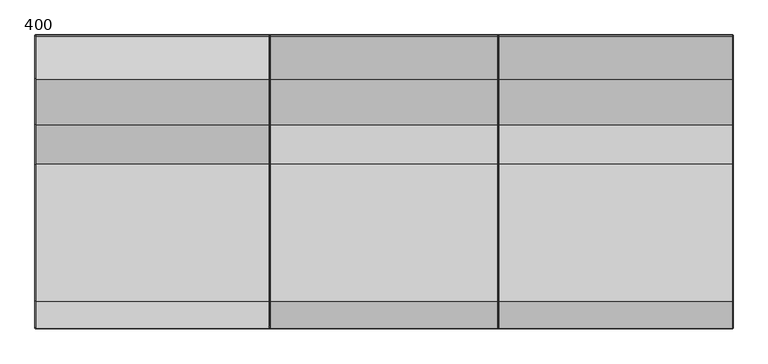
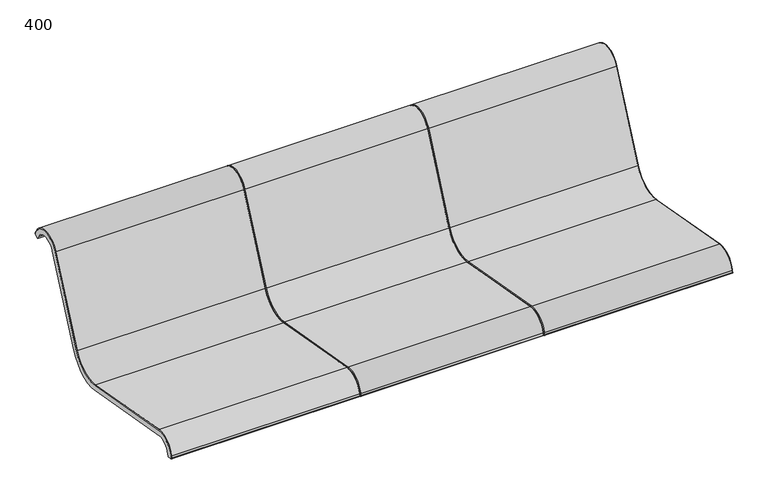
"""IFC4 building model written with IfcOpenShell, lengths in millimetres: furniture geometry, Vestre - Munch - 5116 : 400."""

from ifc_helpers import new_model, si_unit, point, frame, origin, place, context, project, spatial, polyline, circle_curve, ellipse_curve, trimmed, source, transform, mapped, element, save
from ifc_brep_helpers import plane_surface, cylinder_surface, revolved_surface, advanced_brep


def furniture_400_a57a729c(model_context):
    return source(origin(), model_context, "Body", "AdvancedBrep", [
        advanced_brep(
        [(-315.5, 387.7145515, 668.2491387), (-315.5, 382.8976748, 677.7027915), (-315.5, 300.0909448, 675.5344209), (-315.5, 173.7831535, 391.8424769), (-315.5, 43.3199172, 322.4739437), (-315.5, -334.8137617, 389.1491136), (-315.5, -386.6445717, 354.1887908), (-315.5, -388.7630396, 344.2221828), (-315.5, -405.3915488, 347.7566815), (-315.5, -403.2730809, 357.7232895), (-315.5, -331.8617426, 405.8908454), (-315.5, 46.2719363, 339.2156755), (-315.5, 158.2528807, 398.7569998), (-315.5, 284.560672, 682.4489438), (-315.5, 398.0447857, 685.4206299), (-315.5, 402.8616624, 675.9669771), (315.5, -388.7630396, 344.2221828), (315.5, -386.6445717, 354.1887908), (315.5, -334.8137617, 389.1491136), (315.5, 43.3199172, 322.4739437), (315.5, 173.7831535, 391.8424769), (315.5, 300.0909448, 675.5344209), (315.5, 382.8976748, 677.7027915), (315.5, 387.7145515, 668.2491387), (315.5, 402.8616624, 675.9669771), (315.5, 398.0447857, 685.4206299), (315.5, 284.560672, 682.4489438), (315.5, 158.2528807, 398.7569998), (315.5, 46.2719363, 339.2156755), (315.5, -331.8617426, 405.8908454), (315.5, -403.2730809, 357.7232895), (315.5, -405.3915488, 347.7566815), (-312.5, -331.3407981, 408.8452686), (312.5, -331.3407981, 408.8452686), (312.5, 46.7928808, 342.1700987), (-312.5000019, 46.7928808, 342.1700987), (-312.5, -406.2075237, 358.3470246), (312.5, -406.2075237, 358.3470246), (-312.5, -407.7022566, 351.3148594), (312.5, -407.7022566, 351.3148594), (-312.5000019, 400.7178052, 686.7826014), (312.5, 400.7178052, 686.7826014), (312.5, 404.1727104, 680.0019682), (-312.5, 404.1727104, 680.0019682), (-312.5, 281.8200356, 683.6691538), (312.5, 281.8200356, 683.6691538), (-312.5, 155.5122443, 399.9772097), (312.5, 155.5122443, 399.9772097)],
        [
            (0, 1),
            (1, 2, circle_curve(frame((-315.5, 342.0114396, 656.8702141), z_axis=(1.0, 0.0, 0.0), x_axis=(0.0, -1.0, 0.0)), 45.8876945)),
            (2, 3),
            (3, 4, circle_curve(frame((-315.5, 64.1576986, 440.650874), z_axis=(-1.0, 0.0, 0.0), x_axis=(0.0, -1.0, 0.0)), 120.0)),
            (4, 5),
            (5, 6, circle_curve(frame((-315.5, -342.6279297, 344.8327647), z_axis=(1.0, 0.0, 0.0), x_axis=(0.0, -1.0, 0.0)), 45.0)),
            (6, 7),
            (7, 8),
            (8, 9),
            (9, 10, circle_curve(frame((-315.5, -342.6279297, 344.8327647), z_axis=(-1.0, 0.0, 0.0), x_axis=(0.0, -0.978147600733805, 0.20791169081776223)), 62.0)),
            (10, 11),
            (11, 12, circle_curve(frame((-315.5, 64.1576986, 440.650874), z_axis=(1.0, 0.0, 0.0), x_axis=(0.0, -0.17364817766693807, -0.9848077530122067)), 103.0)),
            (12, 13),
            (13, 14, circle_curve(frame((-315.5, 342.0114396, 656.8702141), z_axis=(-1.0, 0.0, 0.0), x_axis=(0.0, -0.9135454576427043, 0.4067366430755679)), 62.8876945)),
            (14, 15),
            (15, 0),
            (16, 17),
            (17, 18, circle_curve(frame((315.5, -342.6279297, 344.8327647), z_axis=(-1.0, 0.0, 0.0), x_axis=(0.0, -1.0, 0.0)), 45.0)),
            (18, 19),
            (19, 20, circle_curve(frame((315.5, 64.1576986, 440.650874), z_axis=(1.0, 0.0, 0.0), x_axis=(0.0, -1.0, 0.0)), 120.0)),
            (20, 21),
            (21, 22, circle_curve(frame((315.5, 342.0114396, 656.8702141), z_axis=(-1.0, 0.0, 0.0), x_axis=(0.0, -1.0, 0.0)), 45.8876945)),
            (22, 23),
            (23, 24),
            (24, 25),
            (25, 26, circle_curve(frame((315.5, 342.0114396, 656.8702141), z_axis=(1.0, 0.0, 0.0), x_axis=(0.0, 0.8910065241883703, 0.4539904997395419)), 62.8876945)),
            (26, 27),
            (27, 28, circle_curve(frame((315.5, 64.1576986, 440.650874), z_axis=(-1.0, 0.0, 0.0), x_axis=(0.0, 0.9135454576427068, -0.40673664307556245)), 103.0)),
            (28, 29),
            (29, 30, circle_curve(frame((315.5, -342.6279297, 344.8327647), z_axis=(1.0, 0.0, 0.0), x_axis=(0.0, 0.17364817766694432, 0.9848077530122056)), 62.0)),
            (30, 31),
            (31, 16),
            (32, 33),
            (33, 34),
            (34, 35),
            (35, 32),
            (32, 36, circle_curve(frame((-312.5, -342.6279297, 344.8327647), z_axis=(1.0, 0.0, 0.0), x_axis=(0.0, -1.0, 0.0)), 65.0)),
            (36, 37),
            (37, 33, circle_curve(frame((312.5, -342.6279297, 344.8327647), z_axis=(-1.0, 0.0, 0.0), x_axis=(0.0, -1.0, 0.0)), 65.0)),
            (36, 38),
            (38, 39),
            (39, 37),
            (7, 16),
            (31, 8),
            (6, 17),
            (5, 18),
            (4, 19),
            (3, 20),
            (2, 21),
            (1, 22),
            (0, 23),
            (15, 24),
            (40, 41),
            (41, 42),
            (42, 43),
            (43, 40),
            (40, 44, circle_curve(frame((-312.5, 342.0114396, 656.8702141), z_axis=(1.0, 0.0, 0.0), x_axis=(0.0, -1.0, 0.0)), 65.8876945)),
            (44, 45),
            (45, 41, circle_curve(frame((312.5, 342.0114396, 656.8702141), z_axis=(-1.0, 0.0, 0.0), x_axis=(0.0, -1.0, 0.0)), 65.8876945)),
            (44, 46),
            (46, 47),
            (47, 45),
            (46, 35, circle_curve(frame((-312.5, 64.1576986, 440.650874), z_axis=(-1.0, 0.0, 0.0), x_axis=(0.0, -1.0, 0.0)), 100.0)),
            (34, 47, circle_curve(frame((312.5, 64.1576986, 440.650874), z_axis=(1.0, 0.0, 0.0), x_axis=(0.0, -1.0, 0.0)), 100.0)),
            (46, 12, circle_curve(frame((-312.5, 158.2528807, 398.7569998), z_axis=(0.0, -0.406736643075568, -0.9135454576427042), x_axis=(0.0, 0.9135454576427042, -0.406736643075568)), 3.0)),
            (11, 35, circle_curve(frame((-312.5, 46.2719363, 339.2156755), z_axis=(0.0, 0.9848077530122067, -0.17364817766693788), x_axis=(0.0, -0.17364817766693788, -0.9848077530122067)), 3.0)),
            (44, 13, circle_curve(frame((-312.5, 284.560672, 682.4489438), z_axis=(0.0, -0.40673664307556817, -0.9135454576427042), x_axis=(0.0, 0.9135454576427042, -0.40673664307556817)), 3.0)),
            (40, 14, circle_curve(frame((-312.5, 398.0447857, 685.4206299), z_axis=(0.0, -0.45399049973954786, 0.8910065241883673), x_axis=(0.0, -0.8910065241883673, -0.45399049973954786)), 3.0)),
            (43, 15, ellipse_curve(frame((-312.5, 401.4996909, 678.6399967), z_axis=(-0.7071067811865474, -0.32101976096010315, 0.6300367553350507), x_axis=(-0.7071067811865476, 0.32101976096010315, -0.6300367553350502)), 4.2426407, 3.0)),
            (42, 24, ellipse_curve(frame((312.5, 401.4996909, 678.6399967), z_axis=(-0.7071067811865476, 0.32101976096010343, -0.6300367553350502), x_axis=(0.7071067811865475, 0.32101976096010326, -0.6300367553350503)), 4.2426407, 3.0)),
            (41, 25, circle_curve(frame((312.5, 398.0447857, 685.4206299), z_axis=(0.0, 0.45399049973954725, -0.8910065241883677), x_axis=(0.0, -0.8910065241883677, -0.45399049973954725)), 3.0)),
            (45, 26, circle_curve(frame((312.5, 284.560672, 682.4489438), z_axis=(0.0, 0.40673664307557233, 0.9135454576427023), x_axis=(0.0, 0.9135454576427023, -0.40673664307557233)), 3.0)),
            (47, 27, circle_curve(frame((312.5, 158.2528807, 398.7569998), z_axis=(0.0, 0.40673664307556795, 0.9135454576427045), x_axis=(0.0, 0.9135454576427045, -0.40673664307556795)), 3.0)),
            (34, 28, circle_curve(frame((312.5, 46.2719363, 339.2156755), z_axis=(0.0, 0.9848077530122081, -0.17364817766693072), x_axis=(0.0, -0.17364817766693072, -0.9848077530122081)), 3.0)),
            (33, 29, circle_curve(frame((312.5, -331.8617426, 405.8908454), z_axis=(0.0, 0.984807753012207, -0.17364817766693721), x_axis=(0.0, -0.17364817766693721, -0.984807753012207)), 3.0)),
            (37, 30, circle_curve(frame((312.5, -403.2730809, 357.7232895), z_axis=(0.0, 0.20791169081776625, 0.9781476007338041), x_axis=(0.0, 0.9781476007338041, -0.20791169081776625)), 3.0)),
            (39, 31, ellipse_curve(frame((312.5, -404.7678138, 350.6911243), z_axis=(0.7071067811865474, 0.14701576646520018, 0.6916548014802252), x_axis=(0.7071067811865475, -0.1470157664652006, -0.6916548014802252)), 4.2426407, 3.0)),
            (38, 8, ellipse_curve(frame((-312.5, -404.7678138, 350.6911243), z_axis=(0.7071067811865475, -0.14701576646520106, -0.691654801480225), x_axis=(-0.7071067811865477, -0.14701576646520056, -0.6916548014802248)), 4.2426407, 3.0)),
            (36, 9, circle_curve(frame((-312.5, -403.2730809, 357.7232895), z_axis=(0.0, -0.2079116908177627, -0.9781476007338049), x_axis=(0.0, 0.9781476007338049, -0.2079116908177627)), 3.0)),
            (32, 10, circle_curve(frame((-312.5, -331.8617426, 405.8908454), z_axis=(0.0, -0.9848077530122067, 0.17364817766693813), x_axis=(0.0, -0.17364817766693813, -0.9848077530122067)), 3.0)),
        ],
        [
            plane_surface(frame((-315.5, -35.8423014, 440.650874), z_axis=(-1.0, 0.0, 0.0), x_axis=(0.0, 0.0, -1.0))),
            plane_surface(frame((315.5, -35.8423014, 440.650874), z_axis=(1.0, 0.0, 0.0), x_axis=(0.0, 0.0, 1.0))),
            plane_surface(frame((-315.5, -331.3407981, 408.8452686), z_axis=(0.0, 0.17364817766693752, 0.9848077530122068), x_axis=(1.0, 0.0, 0.0))),
            cylinder_surface(frame((315.5, -342.6279297, 344.8327647), z_axis=(-1.0, 0.0, 0.0), x_axis=(0.0, -1.0, 0.0)), 65.0),
            plane_surface(frame((-315.5, -408.3259916, 348.3804166), z_axis=(0.0, -0.978147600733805, 0.20791169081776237), x_axis=(1.0, 0.0, 0.0))),
            plane_surface(frame((-315.5, -388.7630396, 344.2221828), z_axis=(0.0, -0.20791169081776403, -0.9781476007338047), x_axis=(1.0, 0.0, 0.0))),
            plane_surface(frame((-315.5, -386.6445717, 354.1887908), z_axis=(0.0, 0.978147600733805, -0.20791169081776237), x_axis=(1.0, 0.0, 0.0))),
            revolved_surface(polyline([(315.5, -387.6279297, 344.8327647), (-315.5, -387.6279297, 344.8327647)]), (315.5, -342.6279297, 344.8327647), (1.0, 0.0, 0.0)),
            plane_surface(frame((-315.5, 43.3199172, 322.4739437), z_axis=(0.0, -0.1736481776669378, -0.9848077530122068), x_axis=(1.0, 0.0, 0.0))),
            cylinder_surface(frame((315.5, 64.1576986, 440.650874), z_axis=(-1.0, 0.0, 0.0), x_axis=(0.0, -1.0, 0.0)), 120.0),
            plane_surface(frame((-315.5, 300.0909448, 675.5344209), z_axis=(0.0, 0.9135454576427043, -0.406736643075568), x_axis=(1.0, 0.0, 0.0))),
            revolved_surface(polyline([(315.5, 296.1237451, 656.8702141), (-315.5, 296.1237451, 656.8702141)]), (315.5, 342.0114396, 656.8702141), (1.0, 0.0, 0.0)),
            plane_surface(frame((-315.5, 387.7145515, 668.2491387), z_axis=(0.0, -0.8910065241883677, -0.45399049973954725), x_axis=(1.0, 0.0, 0.0))),
            plane_surface(frame((-315.5, 405.5346819, 677.3289486), z_axis=(0.0, 0.45399049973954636, -0.8910065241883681), x_axis=(1.0, 0.0, 0.0))),
            plane_surface(frame((-315.5, 400.7178052, 686.7826014), z_axis=(0.0, 0.8910065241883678, 0.4539904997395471), x_axis=(1.0, 0.0, 0.0))),
            cylinder_surface(frame((315.5, 342.0114396, 656.8702141), z_axis=(-1.0, 0.0, 0.0), x_axis=(0.0, -1.0, 0.0)), 65.8876945),
            plane_surface(frame((-315.5, 155.5122443, 399.9772097), z_axis=(0.0, -0.9135454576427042, 0.4067366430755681), x_axis=(1.0, 0.0, 0.0))),
            revolved_surface(polyline([(312.5, -35.8423014, 440.650874), (-312.5000018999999, -35.8423014, 440.650874)]), (315.5, 64.1576986, 440.650874), (1.0, 0.0, 0.0)),
            revolved_surface(trimmed(ellipse_curve(frame((-312.5, 46.2719363, 339.2156755), z_axis=(0.0, -0.9848077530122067, 0.17364817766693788), x_axis=(0.0, -0.17364817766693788, -0.9848077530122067)), 3.0, 3.0), [point((-312.5, 46.7928808, 342.1700987))], [point((-315.5, 46.2719363, 339.2156755))], True, "CARTESIAN"), (-315.5, 64.1576986, 440.650874), (1.0, 0.0, 0.0)),
            cylinder_surface(frame((-312.5, 158.2528807, 398.7569998), z_axis=(0.0, 0.40673664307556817, 0.9135454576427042), x_axis=(0.0, 0.9135454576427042, -0.40673664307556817)), 3.0),
            revolved_surface(trimmed(ellipse_curve(frame((-312.5, 284.560672, 682.4489438), z_axis=(0.0, -0.406736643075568, -0.9135454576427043), x_axis=(0.0, 0.9135454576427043, -0.406736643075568)), 3.0, 3.0), [point((-312.5, 281.8200356, 683.6691538))], [point((-315.5, 284.560672, 682.4489438))], True, "CARTESIAN"), (-315.5, 342.0114396, 656.8702141), (-1.0, 0.0, 0.0)),
            cylinder_surface(frame((-312.5, 398.0447857, 685.4206299), z_axis=(0.0, 0.4539904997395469, -0.8910065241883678), x_axis=(0.0, -0.8910065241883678, -0.4539904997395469)), 3.0),
            cylinder_surface(frame((-315.5, 401.4996909, 678.6399967), z_axis=(1.0, 0.0, 0.0), x_axis=(0.0, -0.8910065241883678, -0.4539904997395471)), 3.0),
            cylinder_surface(frame((312.5, 402.8616624, 675.9669771), z_axis=(0.0, -0.45399049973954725, 0.8910065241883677), x_axis=(0.0, -0.8910065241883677, -0.45399049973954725)), 3.0),
            revolved_surface(trimmed(ellipse_curve(frame((312.5, 398.0447857, 685.4206299), z_axis=(0.0, 0.45399049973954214, -0.8910065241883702), x_axis=(0.0, -0.8910065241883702, -0.45399049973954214)), 3.0, 3.0), [point((312.5, 400.7178052, 686.7826014))], [point((315.5, 398.0447857, 685.4206299))], True, "CARTESIAN"), (315.5, 342.0114396, 656.8702141), (1.0, 0.0, 0.0)),
            cylinder_surface(frame((312.5, 284.560672, 682.4489438), z_axis=(0.0, -0.40673664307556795, -0.9135454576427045), x_axis=(0.0, 0.9135454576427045, -0.40673664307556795)), 3.0),
            revolved_surface(trimmed(ellipse_curve(frame((312.5, 158.2528807, 398.7569998), z_axis=(0.0, 0.4067366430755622, 0.9135454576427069), x_axis=(0.0, 0.9135454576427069, -0.4067366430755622)), 3.0, 3.0), [point((312.5, 155.5122443, 399.9772097))], [point((315.5, 158.2528807, 398.7569998))], True, "CARTESIAN"), (315.5, 64.1576986, 440.650874), (-1.0, 0.0, 0.0)),
            cylinder_surface(frame((312.5, 46.2719363, 339.2156755), z_axis=(0.0, -0.984807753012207, 0.17364817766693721), x_axis=(0.0, -0.17364817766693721, -0.984807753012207)), 3.0),
            revolved_surface(trimmed(ellipse_curve(frame((312.5, -331.8617426, 405.8908454), z_axis=(0.0, 0.9848077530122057, -0.173648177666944), x_axis=(0.0, -0.173648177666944, -0.9848077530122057)), 3.0, 3.0), [point((312.5, -331.3407981, 408.8452686))], [point((315.5, -331.8617426, 405.8908454))], True, "CARTESIAN"), (315.5, -342.6279297, 344.8327647), (1.0, 0.0, 0.0)),
            cylinder_surface(frame((312.5, -403.2730809, 357.7232895), z_axis=(0.0, -0.20791169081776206, -0.9781476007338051), x_axis=(0.0, 0.9781476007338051, -0.20791169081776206)), 3.0),
            cylinder_surface(frame((315.5, -404.7678138, 350.6911243), z_axis=(-1.0, 0.0, 0.0), x_axis=(0.0, 0.978147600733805, -0.20791169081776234)), 3.0),
            cylinder_surface(frame((-312.5, -405.3915488, 347.7566815), z_axis=(0.0, 0.2079116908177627, 0.9781476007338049), x_axis=(0.0, 0.9781476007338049, -0.2079116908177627)), 3.0),
            revolved_surface(trimmed(ellipse_curve(frame((-312.5, -403.2730809, 357.7232895), z_axis=(0.0, -0.20791169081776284, -0.9781476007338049), x_axis=(0.0, 0.9781476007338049, -0.20791169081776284)), 3.0, 3.0), [point((-312.5, -406.2075237, 358.3470246))], [point((-315.5, -403.2730809, 357.7232895))], True, "CARTESIAN"), (-315.5, -342.6279297, 344.8327647), (-1.0, 0.0, 0.0)),
            cylinder_surface(frame((-312.5, -331.8617426, 405.8908454), z_axis=(0.0, 0.9848077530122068, -0.17364817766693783), x_axis=(0.0, -0.17364817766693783, -0.9848077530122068)), 3.0),
        ],
        [
            (0, [[1, 2, 3, 4, 5, 6, 7, 8, 9, 10, 11, 12, 13, 14, 15, 16]]),
            (1, [[17, 18, 19, 20, 21, 22, 23, 24, 25, 26, 27, 28, 29, 30, 31, 32]]),
            (2, [[33, 34, 35, 36]]),
            (3, [[-33, 37, 38, 39]]),
            (4, [[-38, 40, 41, 42]]),
            (5, [[43, -32, 44, -8]]),
            (6, [[-7, 45, -17, -43]]),
            (7, [[-6, 46, -18, -45]]),
            (8, [[-5, 47, -19, -46]]),
            (9, [[-4, 48, -20, -47]]),
            (10, [[-3, 49, -21, -48]]),
            (11, [[-2, 50, -22, -49]]),
            (12, [[-1, 51, -23, -50]]),
            (13, [[-51, -16, 52, -24]]),
            (14, [[53, 54, 55, 56]]),
            (15, [[-53, 57, 58, 59]]),
            (16, [[-58, 60, 61, 62]]),
            (17, [[-61, 63, -35, 64]]),
            (18, [[65, -12, 66, -63]]),
            (19, [[-65, -60, 67, -13]]),
            (20, [[-67, -57, 68, -14]]),
            (21, [[-68, -56, 69, -15]]),
            (22, [[-69, -55, 70, -52]]),
            (23, [[-70, -54, 71, -25]]),
            (24, [[-71, -59, 72, -26]]),
            (25, [[-72, -62, 73, -27]]),
            (26, [[-73, -64, 74, -28]]),
            (27, [[-74, -34, 75, -29]]),
            (28, [[-75, -39, 76, -30]]),
            (29, [[-76, -42, 77, -31]]),
            (30, [[-77, -41, 78, -44]]),
            (31, [[-78, -40, 79, -9]]),
            (32, [[-79, -37, 80, -10]]),
            (33, [[-66, -11, -80, -36]]),
        ],
    ),
        advanced_brep(
        [(315.5, 387.7145515, 668.2491387), (315.5, 382.8976748, 677.7027915), (315.5, 300.0909448, 675.5344209), (315.5, 173.7831535, 391.8424769), (315.5, 43.3199172, 322.4739437), (315.5, -334.8137617, 389.1491136), (315.5, -386.6445717, 354.1887908), (315.5, -388.7630396, 344.2221828), (315.5, -405.3915488, 347.7566815), (315.5, -403.2730809, 357.7232895), (315.5, -331.8617426, 405.8908454), (315.5, 46.2719363, 339.2156755), (315.5, 158.2528807, 398.7569998), (315.5, 284.560672, 682.4489438), (315.5, 398.0447857, 685.4206299), (315.5, 402.8616624, 675.9669771), (965.1060612, -388.7630396, 344.2221828), (965.1060612, -386.6445717, 354.1887908), (965.1060612, -334.8137617, 389.1491136), (965.1060612, 43.3199172, 322.4739437), (965.1060612, 173.7831535, 391.8424769), (965.1060612, 300.0909448, 675.5344209), (965.1060612, 382.8976748, 677.7027915), (965.1060612, 387.7145515, 668.2491387), (965.1060612, 402.8616624, 675.9669771), (965.1060612, 398.0447857, 685.4206299), (965.1060612, 284.560672, 682.4489438), (965.1060612, 158.2528807, 398.7569998), (965.1060612, 46.2719363, 339.2156755), (965.1060612, -331.8617426, 405.8908454), (965.1060612, -403.2730809, 357.7232895), (965.1060612, -405.3915488, 347.7566815), (318.5, -331.3407981, 408.8452686), (962.1060612, -331.3407981, 408.8452686), (962.1060612, 46.7928808, 342.1700987), (318.4999986, 46.7928808, 342.1700987), (318.5, -406.2075237, 358.3470246), (962.1060612, -406.2075237, 358.3470246), (318.5, -407.7022566, 351.3148594), (962.1060612, -407.7022566, 351.3148594), (318.4999982, 400.7178052, 686.7826014), (962.1060612, 400.7178052, 686.7826014), (962.1060612, 404.1727104, 680.0019682), (318.5, 404.1727104, 680.0019682), (318.5, 281.8200356, 683.6691538), (962.1060612, 281.8200356, 683.6691538), (318.5, 155.5122443, 399.9772097), (962.1060612, 155.5122443, 399.9772097)],
        [
            (0, 1),
            (1, 2, circle_curve(frame((315.5, 342.0114396, 656.8702141), z_axis=(1.0, 0.0, 0.0), x_axis=(0.0, -1.0, 0.0)), 45.8876945)),
            (2, 3),
            (3, 4, circle_curve(frame((315.5, 64.1576986, 440.650874), z_axis=(-1.0, 0.0, 0.0), x_axis=(0.0, -1.0, 0.0)), 120.0)),
            (4, 5),
            (5, 6, circle_curve(frame((315.5, -342.6279297, 344.8327647), z_axis=(1.0, 0.0, 0.0), x_axis=(0.0, -1.0, 0.0)), 45.0)),
            (6, 7),
            (7, 8),
            (8, 9),
            (9, 10, circle_curve(frame((315.5, -342.6279297, 344.8327647), z_axis=(-1.0, 0.0, 0.0), x_axis=(0.0, -0.978147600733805, 0.20791169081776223)), 62.0)),
            (10, 11),
            (11, 12, circle_curve(frame((315.5, 64.1576986, 440.650874), z_axis=(1.0, 0.0, 0.0), x_axis=(0.0, -0.17364817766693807, -0.9848077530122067)), 103.0)),
            (12, 13),
            (13, 14, circle_curve(frame((315.5, 342.0114396, 656.8702141), z_axis=(-1.0, 0.0, 0.0), x_axis=(0.0, -0.9135454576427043, 0.4067366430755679)), 62.8876945)),
            (14, 15),
            (15, 0),
            (16, 17),
            (17, 18, circle_curve(frame((965.1060612, -342.6279297, 344.8327647), z_axis=(-1.0, 0.0, 0.0), x_axis=(0.0, -1.0, 0.0)), 45.0)),
            (18, 19),
            (19, 20, circle_curve(frame((965.1060612, 64.1576986, 440.650874), z_axis=(1.0, 0.0, 0.0), x_axis=(0.0, -1.0, 0.0)), 120.0)),
            (20, 21),
            (21, 22, circle_curve(frame((965.1060612, 342.0114396, 656.8702141), z_axis=(-1.0, 0.0, 0.0), x_axis=(0.0, -1.0, 0.0)), 45.8876945)),
            (22, 23),
            (23, 24),
            (24, 25),
            (25, 26, circle_curve(frame((965.1060612, 342.0114396, 656.8702141), z_axis=(1.0, 0.0, 0.0), x_axis=(0.0, 0.8910065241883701, 0.4539904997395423)), 62.8876945)),
            (26, 27),
            (27, 28, circle_curve(frame((965.1060612, 64.1576986, 440.650874), z_axis=(-1.0, 0.0, 0.0), x_axis=(0.0, 0.9135454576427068, -0.40673664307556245)), 103.0)),
            (28, 29),
            (29, 30, circle_curve(frame((965.1060612, -342.6279297, 344.8327647), z_axis=(1.0, 0.0, 0.0), x_axis=(0.0, 0.17364817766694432, 0.9848077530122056)), 62.0)),
            (30, 31),
            (31, 16),
            (32, 33),
            (33, 34),
            (34, 35),
            (35, 32),
            (32, 36, circle_curve(frame((318.5, -342.6279297, 344.8327647), z_axis=(1.0, 0.0, 0.0), x_axis=(0.0, -1.0, 0.0)), 65.0)),
            (36, 37),
            (37, 33, circle_curve(frame((962.1060612, -342.6279297, 344.8327647), z_axis=(-1.0, 0.0, 0.0), x_axis=(0.0, -1.0, 0.0)), 65.0)),
            (36, 38),
            (38, 39),
            (39, 37),
            (7, 16),
            (31, 8),
            (6, 17),
            (5, 18),
            (4, 19),
            (3, 20),
            (2, 21),
            (1, 22),
            (0, 23),
            (15, 24),
            (40, 41),
            (41, 42),
            (42, 43),
            (43, 40),
            (40, 44, circle_curve(frame((318.5, 342.0114396, 656.8702141), z_axis=(1.0, 0.0, 0.0), x_axis=(0.0, -1.0, 0.0)), 65.8876945)),
            (44, 45),
            (45, 41, circle_curve(frame((962.1060612, 342.0114396, 656.8702141), z_axis=(-1.0, 0.0, 0.0), x_axis=(0.0, -1.0, 0.0)), 65.8876945)),
            (44, 46),
            (46, 47),
            (47, 45),
            (46, 35, circle_curve(frame((318.5, 64.1576986, 440.650874), z_axis=(-1.0, 0.0, 0.0), x_axis=(0.0, -1.0, 0.0)), 100.0)),
            (34, 47, circle_curve(frame((962.1060612, 64.1576986, 440.650874), z_axis=(1.0, 0.0, 0.0), x_axis=(0.0, -1.0, 0.0)), 100.0)),
            (46, 12, circle_curve(frame((318.5, 158.2528807, 398.7569998), z_axis=(0.0, -0.40673664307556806, -0.9135454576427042), x_axis=(0.0, 0.9135454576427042, -0.40673664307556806)), 3.0)),
            (11, 35, circle_curve(frame((318.5, 46.2719363, 339.2156755), z_axis=(0.0, 0.9848077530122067, -0.17364817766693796), x_axis=(0.0, -0.17364817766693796, -0.9848077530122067)), 3.0)),
            (44, 13, circle_curve(frame((318.5, 284.560672, 682.4489438), z_axis=(0.0, -0.4067366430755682, -0.9135454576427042), x_axis=(0.0, 0.9135454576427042, -0.4067366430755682)), 3.0)),
            (40, 14, circle_curve(frame((318.5, 398.0447857, 685.4206299), z_axis=(0.0, -0.4539904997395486, 0.8910065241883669), x_axis=(0.0, -0.8910065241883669, -0.4539904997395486)), 3.0)),
            (43, 15, ellipse_curve(frame((318.5, 401.4996909, 678.6399967), z_axis=(-0.7071067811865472, -0.3210197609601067, 0.6300367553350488), x_axis=(-0.7071067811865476, 0.32101976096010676, -0.6300367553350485)), 4.2426407, 3.0)),
            (42, 24, ellipse_curve(frame((962.1060612, 401.4996909, 678.6399967), z_axis=(-0.7071067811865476, 0.321019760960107, -0.6300367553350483), x_axis=(0.7071067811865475, 0.3210197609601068, -0.6300367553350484)), 4.2426407, 3.0)),
            (41, 25, circle_curve(frame((962.1060612, 398.0447857, 685.4206299), z_axis=(0.0, 0.4539904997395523, -0.8910065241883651), x_axis=(0.0, -0.8910065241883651, -0.4539904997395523)), 3.0)),
            (45, 26, circle_curve(frame((962.1060612, 284.560672, 682.4489438), z_axis=(0.0, 0.4067366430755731, 0.913545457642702), x_axis=(0.0, 0.913545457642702, -0.4067366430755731)), 3.0)),
            (47, 27, circle_curve(frame((962.1060612, 158.2528807, 398.7569998), z_axis=(0.0, 0.4067366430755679, 0.9135454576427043), x_axis=(0.0, 0.9135454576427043, -0.4067366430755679)), 3.0)),
            (34, 28, circle_curve(frame((962.1060612, 46.2719363, 339.2156755), z_axis=(0.0, 0.9848077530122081, -0.17364817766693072), x_axis=(0.0, -0.17364817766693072, -0.9848077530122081)), 3.0)),
            (33, 29, circle_curve(frame((962.1060612, -331.8617426, 405.8908454), z_axis=(0.0, 0.9848077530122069, -0.17364817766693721), x_axis=(0.0, -0.17364817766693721, -0.9848077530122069)), 3.0)),
            (37, 30, circle_curve(frame((962.1060612, -403.2730809, 357.7232895), z_axis=(0.0, 0.2079116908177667, 0.978147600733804), x_axis=(0.0, 0.978147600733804, -0.2079116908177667)), 3.0)),
            (39, 31, ellipse_curve(frame((962.1060612, -404.7678138, 350.6911243), z_axis=(0.7071067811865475, 0.1470157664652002, 0.6916548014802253), x_axis=(0.7071067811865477, -0.14701576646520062, -0.691654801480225)), 4.2426407, 3.0)),
            (38, 8, ellipse_curve(frame((318.5, -404.7678138, 350.6911243), z_axis=(0.7071067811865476, -0.14701576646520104, -0.691654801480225), x_axis=(-0.7071067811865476, -0.14701576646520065, -0.6916548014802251)), 4.2426407, 3.0)),
            (36, 9, circle_curve(frame((318.5, -403.2730809, 357.7232895), z_axis=(0.0, -0.20791169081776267, -0.9781476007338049), x_axis=(0.0, 0.9781476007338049, -0.20791169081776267)), 3.0)),
            (32, 10, circle_curve(frame((318.5, -331.8617426, 405.8908454), z_axis=(0.0, -0.9848077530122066, 0.17364817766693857), x_axis=(0.0, -0.17364817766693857, -0.9848077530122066)), 3.0)),
        ],
        [
            plane_surface(frame((315.5, -35.8423014, 440.650874), z_axis=(-1.0, 0.0, 0.0), x_axis=(0.0, 0.0, -1.0))),
            plane_surface(frame((965.1060612, -35.8423014, 440.650874), z_axis=(1.0, 0.0, 0.0), x_axis=(0.0, 0.0, 1.0))),
            plane_surface(frame((315.5, -331.3407981, 408.8452686), z_axis=(0.0, 0.17364817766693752, 0.9848077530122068), x_axis=(1.0, 0.0, 0.0))),
            cylinder_surface(frame((965.1060612, -342.6279297, 344.8327647), z_axis=(-1.0, 0.0, 0.0), x_axis=(0.0, -1.0, 0.0)), 65.0),
            plane_surface(frame((315.5, -408.3259916, 348.3804166), z_axis=(0.0, -0.978147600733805, 0.20791169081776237), x_axis=(1.0, 0.0, 0.0))),
            plane_surface(frame((315.5, -388.7630396, 344.2221828), z_axis=(0.0, -0.20791169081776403, -0.9781476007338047), x_axis=(1.0, 0.0, 0.0))),
            plane_surface(frame((315.5, -386.6445717, 354.1887908), z_axis=(0.0, 0.9781476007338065, -0.20791169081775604), x_axis=(1.0, 0.0, 0.0))),
            revolved_surface(polyline([(965.1060612, -387.6279297, 344.8327647), (315.5, -387.6279297, 344.8327647)]), (965.1060612, -342.6279297, 344.8327647), (1.0, 0.0, 0.0)),
            plane_surface(frame((315.5, 43.3199172, 322.4739437), z_axis=(0.0, -0.1736481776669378, -0.9848077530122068), x_axis=(1.0, 0.0, 0.0))),
            cylinder_surface(frame((965.1060612, 64.1576986, 440.650874), z_axis=(-1.0, 0.0, 0.0), x_axis=(0.0, -1.0, 0.0)), 120.0),
            plane_surface(frame((315.5, 300.0909448, 675.5344209), z_axis=(0.0, 0.9135454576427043, -0.406736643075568), x_axis=(1.0, 0.0, 0.0))),
            revolved_surface(polyline([(965.1060612, 296.1237451, 656.8702141), (315.5, 296.1237451, 656.8702141)]), (965.1060612, 342.0114396, 656.8702141), (1.0, 0.0, 0.0)),
            plane_surface(frame((315.5, 387.7145515, 668.2491387), z_axis=(0.0, -0.8910065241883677, -0.45399049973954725), x_axis=(1.0, 0.0, 0.0))),
            plane_surface(frame((315.5, 405.5346819, 677.3289486), z_axis=(0.0, 0.45399049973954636, -0.8910065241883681), x_axis=(1.0, 0.0, 0.0))),
            plane_surface(frame((315.5, 400.7178052, 686.7826014), z_axis=(0.0, 0.8910065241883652, 0.45399049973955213), x_axis=(1.0, 0.0, 0.0))),
            cylinder_surface(frame((965.1060612, 342.0114396, 656.8702141), z_axis=(-1.0, 0.0, 0.0), x_axis=(0.0, -1.0, 0.0)), 65.8876945),
            plane_surface(frame((315.5, 155.5122443, 399.9772097), z_axis=(0.0, -0.9135454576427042, 0.4067366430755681), x_axis=(1.0, 0.0, 0.0))),
            revolved_surface(polyline([(962.1060612, -35.8423014, 440.650874), (318.4999986, -35.8423014, 440.650874)]), (965.1060612, 64.1576986, 440.650874), (1.0, 0.0, 0.0)),
            revolved_surface(trimmed(ellipse_curve(frame((318.5, 46.2719363, 339.2156755), z_axis=(0.0, -0.9848077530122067, 0.17364817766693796), x_axis=(0.0, -0.17364817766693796, -0.9848077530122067)), 3.0, 3.0), [point((318.5, 46.7928808, 342.1700987))], [point((315.5, 46.2719363, 339.2156755))], True, "CARTESIAN"), (315.5, 64.1576986, 440.650874), (1.0, 0.0, 0.0)),
            cylinder_surface(frame((318.5, 158.2528807, 398.7569998), z_axis=(0.0, 0.4067366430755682, 0.9135454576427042), x_axis=(0.0, 0.9135454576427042, -0.4067366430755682)), 3.0),
            revolved_surface(trimmed(ellipse_curve(frame((318.5, 284.560672, 682.4489438), z_axis=(0.0, -0.406736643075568, -0.9135454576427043), x_axis=(0.0, 0.9135454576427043, -0.406736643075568)), 3.0, 3.0), [point((318.5, 281.8200356, 683.6691538))], [point((315.5, 284.560672, 682.4489438))], True, "CARTESIAN"), (315.5, 342.0114396, 656.8702141), (-1.0, 0.0, 0.0)),
            cylinder_surface(frame((318.5, 398.0447857, 685.4206299), z_axis=(0.0, 0.45399049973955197, -0.8910065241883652), x_axis=(0.0, -0.8910065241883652, -0.45399049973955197)), 3.0),
            cylinder_surface(frame((315.5, 401.4996909, 678.6399967), z_axis=(1.0000000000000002, 0.0, 0.0), x_axis=(0.0, -0.8910065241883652, -0.4539904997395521)), 3.0),
            cylinder_surface(frame((962.1060612, 402.8616624, 675.9669771), z_axis=(0.0, -0.4539904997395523, 0.8910065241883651), x_axis=(0.0, -0.8910065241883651, -0.4539904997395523)), 3.0),
            revolved_surface(trimmed(ellipse_curve(frame((962.1060612, 398.0447857, 685.4206299), z_axis=(0.0, 0.45399049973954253, -0.89100652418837), x_axis=(0.0, -0.89100652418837, -0.45399049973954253)), 3.0, 3.0), [point((962.1060612, 400.7178052, 686.7826014))], [point((965.1060612, 398.0447857, 685.4206299))], True, "CARTESIAN"), (965.1060612, 342.0114396, 656.8702141), (1.0, 0.0, 0.0)),
            cylinder_surface(frame((962.1060612, 284.560672, 682.4489438), z_axis=(0.0, -0.4067366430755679, -0.9135454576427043), x_axis=(0.0, 0.9135454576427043, -0.4067366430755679)), 3.0),
            revolved_surface(trimmed(ellipse_curve(frame((962.1060612, 158.2528807, 398.7569998), z_axis=(0.0, 0.4067366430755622, 0.9135454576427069), x_axis=(0.0, 0.9135454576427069, -0.4067366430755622)), 3.0, 3.0), [point((962.1060612, 155.5122443, 399.9772097))], [point((965.1060612, 158.2528807, 398.7569998))], True, "CARTESIAN"), (965.1060612, 64.1576986, 440.650874), (-1.0, 0.0, 0.0)),
            cylinder_surface(frame((962.1060612, 46.2719363, 339.2156755), z_axis=(0.0, -0.9848077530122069, 0.17364817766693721), x_axis=(0.0, -0.17364817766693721, -0.9848077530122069)), 3.0),
            revolved_surface(trimmed(ellipse_curve(frame((962.1060612, -331.8617426, 405.8908454), z_axis=(0.0, 0.9848077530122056, -0.1736481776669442), x_axis=(0.0, -0.1736481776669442, -0.9848077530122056)), 3.0, 3.0), [point((962.1060612, -331.3407981, 408.8452686))], [point((965.1060612, -331.8617426, 405.8908454))], True, "CARTESIAN"), (965.1060612, -342.6279297, 344.8327647), (1.0, 0.0, 0.0)),
            cylinder_surface(frame((962.1060612, -403.2730809, 357.7232895), z_axis=(0.0, -0.20791169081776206, -0.978147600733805), x_axis=(0.0, 0.978147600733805, -0.20791169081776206)), 3.0),
            cylinder_surface(frame((965.1060612, -404.7678138, 350.6911243), z_axis=(-1.0, 0.0, 0.0), x_axis=(0.0, 0.978147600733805, -0.2079116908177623)), 3.0),
            cylinder_surface(frame((318.5, -405.3915488, 347.7566815), z_axis=(0.0, 0.20791169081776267, 0.9781476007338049), x_axis=(0.0, 0.9781476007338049, -0.20791169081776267)), 3.0),
            revolved_surface(trimmed(ellipse_curve(frame((318.5, -403.2730809, 357.7232895), z_axis=(0.0, -0.20791169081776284, -0.9781476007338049), x_axis=(0.0, 0.9781476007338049, -0.20791169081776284)), 3.0, 3.0), [point((318.5, -406.2075237, 358.3470246))], [point((315.5, -403.2730809, 357.7232895))], True, "CARTESIAN"), (315.5, -342.6279297, 344.8327647), (-1.0, 0.0, 0.0)),
            cylinder_surface(frame((318.5, -331.8617426, 405.8908454), z_axis=(0.0, 0.9848077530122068, -0.17364817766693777), x_axis=(0.0, -0.17364817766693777, -0.9848077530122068)), 3.0),
        ],
        [
            (0, [[1, 2, 3, 4, 5, 6, 7, 8, 9, 10, 11, 12, 13, 14, 15, 16]]),
            (1, [[17, 18, 19, 20, 21, 22, 23, 24, 25, 26, 27, 28, 29, 30, 31, 32]]),
            (2, [[33, 34, 35, 36]]),
            (3, [[-33, 37, 38, 39]]),
            (4, [[-38, 40, 41, 42]]),
            (5, [[43, -32, 44, -8]]),
            (6, [[-7, 45, -17, -43]]),
            (7, [[-6, 46, -18, -45]]),
            (8, [[-5, 47, -19, -46]]),
            (9, [[-4, 48, -20, -47]]),
            (10, [[-3, 49, -21, -48]]),
            (11, [[-2, 50, -22, -49]]),
            (12, [[-1, 51, -23, -50]]),
            (13, [[-51, -16, 52, -24]]),
            (14, [[53, 54, 55, 56]]),
            (15, [[-53, 57, 58, 59]]),
            (16, [[-58, 60, 61, 62]]),
            (17, [[-61, 63, -35, 64]]),
            (18, [[65, -12, 66, -63]]),
            (19, [[-65, -60, 67, -13]]),
            (20, [[-67, -57, 68, -14]]),
            (21, [[-68, -56, 69, -15]]),
            (22, [[-69, -55, 70, -52]]),
            (23, [[-70, -54, 71, -25]]),
            (24, [[-71, -59, 72, -26]]),
            (25, [[-72, -62, 73, -27]]),
            (26, [[-73, -64, 74, -28]]),
            (27, [[-74, -34, 75, -29]]),
            (28, [[-75, -39, 76, -30]]),
            (29, [[-76, -42, 77, -31]]),
            (30, [[-77, -41, 78, -44]]),
            (31, [[-78, -40, 79, -9]]),
            (32, [[-79, -37, 80, -10]]),
            (33, [[-66, -11, -80, -36]]),
        ],
    ),
        advanced_brep(
        [(-315.5, -388.7630396, 344.2221828), (-315.5, -386.6445717, 354.1887908), (-315.5, -334.8137617, 389.1491136), (-315.5, 43.3199172, 322.4739437), (-315.5, 173.7831535, 391.8424769), (-315.5, 300.0909448, 675.5344209), (-315.5, 382.8976748, 677.7027915), (-315.5, 387.7145515, 668.2491387), (-315.5, 402.8355839, 675.9536895), (-315.5, 398.0187072, 685.4073423), (-315.5, 284.5874101, 682.4370393), (-315.5, 158.2796189, 398.7450952), (-315.5, 46.2668538, 339.1868516), (-315.5, -331.8668251, 405.8620215), (-315.5, -403.2444519, 357.7172042), (-315.5, -405.3629199, 347.7505963), (-965.1060612, 387.7145515, 668.2491387), (-965.1060612, 382.8976748, 677.7027915), (-965.1060612, 300.0909448, 675.5344209), (-965.1060612, 173.7831535, 391.8424769), (-965.1060612, 43.3199172, 322.4739437), (-965.1060612, -334.8137617, 389.1491136), (-965.1060612, -386.6445717, 354.1887908), (-965.1060612, -388.7630396, 344.2221828), (-965.1060612, -405.3629199, 347.7505963), (-965.1060612, -403.2444519, 357.7172042), (-965.1060612, -331.8668251, 405.8620215), (-965.1060612, 46.2668538, 339.1868516), (-965.1060612, 158.2796189, 398.7450952), (-965.1060612, 284.5874101, 682.4370393), (-965.1060612, 398.0187072, 685.4073423), (-965.1060612, 402.8355839, 675.9536895), (-318.5292686, 46.7928808, 342.1700987), (-962.076793, 46.7928808, 342.1700987), (-962.0767926, -331.3407981, 408.8452686), (-318.5292686, -331.3407981, 408.8452686), (-962.0767926, -406.2075237, 358.3470246), (-318.5292686, -406.2075237, 358.3470246), (-962.0767926, -407.6961713, 351.3434884), (-318.5292686, -407.6961713, 351.3434884), (-962.0767943, 400.7178052, 686.7826014), (-318.5292686, 400.7178052, 686.7826014), (-318.5292686, 404.1594228, 680.0280467), (-962.0767926, 404.1594228, 680.0280467), (-962.0767926, 281.8200356, 683.6691538), (-318.5292686, 281.8200356, 683.6691538), (-962.0767926, 155.5122443, 399.9772097), (-318.5292686, 155.5122443, 399.9772097)],
        [
            (0, 1),
            (1, 2, circle_curve(frame((-315.5, -342.6279297, 344.8327647), z_axis=(-1.0, 0.0, 0.0), x_axis=(0.0, -1.0, 0.0)), 45.0)),
            (2, 3),
            (3, 4, circle_curve(frame((-315.5, 64.1576986, 440.650874), z_axis=(1.0, 0.0, 0.0), x_axis=(0.0, -1.0, 0.0)), 120.0)),
            (4, 5),
            (5, 6, circle_curve(frame((-315.5, 342.0114396, 656.8702141), z_axis=(-1.0, 0.0, 0.0), x_axis=(0.0, -1.0, 0.0)), 45.8876945)),
            (6, 7),
            (7, 8),
            (8, 9),
            (9, 10, circle_curve(frame((-315.5, 342.0114396, 656.8702141), z_axis=(1.0, 0.0, 0.0), x_axis=(0.0, 0.8910065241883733, 0.453990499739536)), 62.8584259)),
            (10, 11),
            (11, 12, circle_curve(frame((-315.5, 64.1576986, 440.650874), z_axis=(-1.0, 0.0, 0.0), x_axis=(0.0, 0.9135454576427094, -0.4067366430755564)), 103.0292686)),
            (12, 13),
            (13, 14, circle_curve(frame((-315.5, -342.6279297, 344.8327647), z_axis=(1.0, 0.0, 0.0), x_axis=(0.0, 0.17364817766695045, 0.9848077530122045)), 61.9707314)),
            (14, 15),
            (15, 0),
            (16, 17),
            (17, 18, circle_curve(frame((-965.1060612, 342.0114396, 656.8702141), z_axis=(1.0, 0.0, 0.0), x_axis=(0.0, -1.0, 0.0)), 45.8876945)),
            (18, 19),
            (19, 20, circle_curve(frame((-965.1060612, 64.1576986, 440.650874), z_axis=(-1.0, 0.0, 0.0), x_axis=(0.0, -1.0, 0.0)), 120.0)),
            (20, 21),
            (21, 22, circle_curve(frame((-965.1060612, -342.6279297, 344.8327647), z_axis=(1.0, 0.0, 0.0), x_axis=(0.0, -1.0, 0.0)), 45.0)),
            (22, 23),
            (23, 24),
            (24, 25),
            (25, 26, circle_curve(frame((-965.1060612, -342.6279297, 344.8327647), z_axis=(-1.0, 0.0, 0.0), x_axis=(0.0, -0.978147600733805, 0.20791169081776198)), 61.9707314)),
            (26, 27),
            (27, 28, circle_curve(frame((-965.1060612, 64.1576986, 440.650874), z_axis=(1.0, 0.0, 0.0), x_axis=(0.0, -0.17364817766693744, -0.9848077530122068)), 103.0292686)),
            (28, 29),
            (29, 30, circle_curve(frame((-965.1060612, 342.0114396, 656.8702141), z_axis=(-1.0, 0.0, 0.0), x_axis=(0.0, -0.9135454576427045, 0.4067366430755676)), 62.8584259)),
            (30, 31),
            (31, 16),
            (32, 33),
            (33, 34),
            (34, 35),
            (35, 32),
            (34, 36, circle_curve(frame((-962.0767926, -342.6279297, 344.8327647), z_axis=(1.0, 0.0, 0.0), x_axis=(0.0, -1.0, 0.0)), 65.0)),
            (36, 37),
            (37, 35, circle_curve(frame((-318.5292686, -342.6279297, 344.8327647), z_axis=(-1.0, 0.0, 0.0), x_axis=(0.0, -1.0, 0.0)), 65.0)),
            (36, 38),
            (38, 39),
            (39, 37),
            (23, 0),
            (15, 24),
            (22, 1),
            (21, 2),
            (20, 3),
            (19, 4),
            (18, 5),
            (17, 6),
            (16, 7),
            (31, 8),
            (40, 41),
            (41, 42),
            (42, 43),
            (43, 40),
            (40, 44, circle_curve(frame((-962.0767926, 342.0114396, 656.8702141), z_axis=(1.0, 0.0, 0.0), x_axis=(0.0, -1.0, 0.0)), 65.8876945)),
            (44, 45),
            (45, 41, circle_curve(frame((-318.5292686, 342.0114396, 656.8702141), z_axis=(-1.0, 0.0, 0.0), x_axis=(0.0, -1.0, 0.0)), 65.8876945)),
            (44, 46),
            (46, 47),
            (47, 45),
            (32, 47, circle_curve(frame((-318.5292686, 64.1576986, 440.650874), z_axis=(1.0, 0.0, 0.0), x_axis=(0.0, -1.0, 0.0)), 100.0)),
            (46, 33, circle_curve(frame((-962.0767926, 64.1576986, 440.650874), z_axis=(-1.0, 0.0, 0.0), x_axis=(0.0, -1.0, 0.0)), 100.0)),
            (46, 28, circle_curve(frame((-962.0767926, 158.2796189, 398.7450952), z_axis=(0.0, -0.4067366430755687, -0.9135454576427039), x_axis=(1.0, 0.0, 0.0)), 3.0292686)),
            (27, 33, circle_curve(frame((-962.0767926, 46.2668538, 339.1868516), z_axis=(0.0, 0.9848077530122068, -0.17364817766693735), x_axis=(1.0, 0.0, 0.0)), 3.0292686)),
            (44, 29, circle_curve(frame((-962.0767926, 284.5874101, 682.4370393), z_axis=(0.0, -0.4067366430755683, -0.9135454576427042), x_axis=(1.0, 0.0, 0.0)), 3.0292686)),
            (40, 30, circle_curve(frame((-962.0767926, 398.0187072, 685.4073423), z_axis=(0.0, -0.45399049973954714, 0.8910065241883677), x_axis=(1.0, 0.0, 0.0)), 3.0292686)),
            (43, 31, ellipse_curve(frame((-962.0767926, 401.4603247, 678.6527875), z_axis=(-0.7071067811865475, -0.3210197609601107, 0.6300367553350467), x_axis=(-0.7071067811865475, 0.3210197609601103, -0.6300367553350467)), 4.2840327, 3.0292686)),
            (42, 8, ellipse_curve(frame((-318.5292686, 401.4603247, 678.6527875), z_axis=(-0.7071067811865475, 0.3210197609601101, -0.6300367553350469), x_axis=(0.7071067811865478, 0.32101976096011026, -0.6300367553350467)), 4.2840327, 3.0292686)),
            (41, 9, circle_curve(frame((-318.5292686, 398.0187072, 685.4073423), z_axis=(0.0, 0.45399049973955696, -0.8910065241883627), x_axis=(-1.0, 0.0, 0.0)), 3.0292686)),
            (45, 10, circle_curve(frame((-318.5292686, 284.5874101, 682.4370393), z_axis=(0.0, 0.4067366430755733, 0.913545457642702), x_axis=(-1.0, 0.0, 0.0)), 3.0292686)),
            (47, 11, circle_curve(frame((-318.5292686, 158.2796189, 398.7450952), z_axis=(0.0, 0.40673664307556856, 0.913545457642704), x_axis=(-1.0, 0.0, 0.0)), 3.0292686)),
            (32, 12, circle_curve(frame((-318.5292686, 46.2668538, 339.1868516), z_axis=(0.0, 0.9848077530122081, -0.17364817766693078), x_axis=(-1.0, 0.0, 0.0)), 3.0292686)),
            (35, 13, circle_curve(frame((-318.5292686, -331.8668251, 405.8620215), z_axis=(0.0, 0.9848077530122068, -0.17364817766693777), x_axis=(-1.0, 0.0, 0.0)), 3.0292686)),
            (37, 14, circle_curve(frame((-318.5292686, -403.2444519, 357.7172042), z_axis=(0.0, 0.20791169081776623, 0.9781476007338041), x_axis=(-1.0, 0.0, 0.0)), 3.0292686)),
            (39, 15, ellipse_curve(frame((-318.5292686, -404.7330995, 350.713668), z_axis=(0.7071067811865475, 0.147015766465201, 0.6916548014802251), x_axis=(0.7071067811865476, -0.14701576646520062, -0.6916548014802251)), 4.2840327, 3.0292686)),
            (38, 24, ellipse_curve(frame((-962.0767926, -404.7330995, 350.713668), z_axis=(0.7071067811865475, -0.1470157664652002, -0.6916548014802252), x_axis=(-0.7071067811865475, -0.14701576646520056, -0.6916548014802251)), 4.2840327, 3.0292686)),
            (36, 25, circle_curve(frame((-962.0767926, -403.2444519, 357.7172042), z_axis=(0.0, -0.2079116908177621, -0.9781476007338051), x_axis=(1.0, 0.0, 0.0)), 3.0292686)),
            (34, 26, circle_curve(frame((-962.0767926, -331.8668251, 405.8620215), z_axis=(0.0, -0.9848077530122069, 0.17364817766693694), x_axis=(1.0, 0.0, 0.0)), 3.0292686)),
        ],
        [
            plane_surface(frame((-315.5, -330.1637759, 408.6377279), z_axis=(1.0, 0.0, 0.0), x_axis=(0.0, -0.9848077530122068, 0.17364817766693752))),
            plane_surface(frame((-965.1060612, -330.1637759, 408.6377279), z_axis=(-1.0, 0.0, 0.0), x_axis=(0.0, 0.9848077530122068, -0.17364817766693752))),
            plane_surface(frame((-315.5, 46.7928808, 342.1700987), z_axis=(0.0, 0.17364817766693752, 0.9848077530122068), x_axis=(-1.0, 0.0, 0.0))),
            cylinder_surface(frame((-965.1060612, -342.6279297, 344.8327647), z_axis=(1.0, 0.0, 0.0), x_axis=(0.0, -1.0, 0.0)), 65.0),
            plane_surface(frame((-315.5, -406.2075237, 358.3470246), z_axis=(0.0, -0.978147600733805, 0.20791169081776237), x_axis=(-1.0, 0.0, 0.0))),
            plane_surface(frame((-315.5, -408.3259916, 348.3804166), z_axis=(0.0, -0.20791169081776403, -0.9781476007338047), x_axis=(-1.0, 0.0, 0.0))),
            plane_surface(frame((-315.5, -388.7630396, 344.2221828), z_axis=(0.0, 0.9781476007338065, -0.20791169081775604), x_axis=(-1.0, 0.0, 0.0))),
            revolved_surface(polyline([(-965.1060612, -387.6279297, 344.8327647), (-315.5, -387.6279297, 344.8327647)]), (-965.1060612, -342.6279297, 344.8327647), (-1.0, 0.0, 0.0)),
            plane_surface(frame((-315.5, -334.8137617, 389.1491136), z_axis=(0.0, -0.1736481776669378, -0.9848077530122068), x_axis=(-1.0, 0.0, 0.0))),
            cylinder_surface(frame((-965.1060612, 64.1576986, 440.650874), z_axis=(1.0, 0.0, 0.0), x_axis=(0.0, -1.0, 0.0)), 120.0),
            plane_surface(frame((-315.5, 173.7831535, 391.8424769), z_axis=(0.0, 0.9135454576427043, -0.406736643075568), x_axis=(-1.0, 0.0, 0.0))),
            revolved_surface(polyline([(-965.1060612, 296.1237451, 656.8702141), (-315.5, 296.1237451, 656.8702141)]), (-965.1060612, 342.0114396, 656.8702141), (-1.0, 0.0, 0.0)),
            plane_surface(frame((-315.5, 382.8976748, 677.7027915), z_axis=(0.0, -0.8910065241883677, -0.45399049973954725), x_axis=(-1.0, 0.0, 0.0))),
            plane_surface(frame((-315.5, 387.7145515, 668.2491387), z_axis=(0.0, 0.45399049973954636, -0.8910065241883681), x_axis=(-1.0, 0.0, 0.0))),
            plane_surface(frame((-315.5, 405.5346819, 677.3289486), z_axis=(0.0, 0.8910065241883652, 0.45399049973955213), x_axis=(-1.0, 0.0, 0.0))),
            cylinder_surface(frame((-965.1060612, 342.0114396, 656.8702141), z_axis=(1.0, 0.0, 0.0), x_axis=(0.0, -1.0, 0.0)), 65.8876945),
            plane_surface(frame((-315.5, 281.8200356, 683.6691538), z_axis=(0.0, -0.9135454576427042, 0.4067366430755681), x_axis=(-1.0, 0.0, 0.0))),
            revolved_surface(polyline([(-962.076793, -35.8423014, 440.650874), (-318.5292686, -35.8423014, 440.650874)]), (-965.1060612, 64.1576986, 440.650874), (-1.0, 0.0, 0.0)),
            revolved_surface(trimmed(ellipse_curve(frame((-962.0767926, 46.2668538, 339.1868516), z_axis=(0.0, -0.9848077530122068, 0.17364817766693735), x_axis=(1.0, 0.0, 0.0)), 3.0292686, 3.0292686), [point((-962.0767926, 46.7928808, 342.1700987))], [point((-965.1060612, 46.2668538, 339.1868516))], True, "CARTESIAN"), (-965.1060612, 64.1576986, 440.650874), (1.0, 0.0, 0.0)),
            cylinder_surface(frame((-962.0767926, 158.2796189, 398.7450952), z_axis=(0.0, 0.4067366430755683, 0.9135454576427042), x_axis=(1.0, 0.0, 0.0)), 3.0292686),
            revolved_surface(trimmed(ellipse_curve(frame((-962.0767926, 284.5874101, 682.4370393), z_axis=(0.0, -0.40673664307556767, -0.9135454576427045), x_axis=(1.0, 0.0, 0.0)), 3.0292686, 3.0292686), [point((-962.0767926, 281.8200356, 683.6691538))], [point((-965.1060612, 284.5874101, 682.4370393))], True, "CARTESIAN"), (-965.1060612, 342.0114396, 656.8702141), (-1.0, 0.0, 0.0)),
            cylinder_surface(frame((-962.0767926, 398.0187072, 685.4073423), z_axis=(0.0, 0.4539904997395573, -0.8910065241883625), x_axis=(1.0, 0.0, 0.0)), 3.0292686),
            cylinder_surface(frame((-965.1060612, 401.4603247, 678.6527875), z_axis=(1.0, 0.0, 0.0), x_axis=(0.0, -0.45399049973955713, 0.8910065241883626)), 3.0292686),
            cylinder_surface(frame((-318.5292686, 402.8355839, 675.9536895), z_axis=(0.0, -0.45399049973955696, 0.8910065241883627), x_axis=(-1.0, 0.0, 0.0)), 3.0292686),
            revolved_surface(trimmed(ellipse_curve(frame((-318.5292686, 398.0187072, 685.4073423), z_axis=(0.0, 0.45399049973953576, -0.8910065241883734), x_axis=(-1.0, 0.0, 0.0)), 3.0292686, 3.0292686), [point((-318.5292686, 400.7178052, 686.7826014))], [point((-315.5, 398.0187072, 685.4073423))], True, "CARTESIAN"), (-315.5, 342.0114396, 656.8702141), (1.0, 0.0, 0.0)),
            cylinder_surface(frame((-318.5292686, 284.5874101, 682.4370393), z_axis=(0.0, -0.40673664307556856, -0.913545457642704), x_axis=(-1.0, 0.0, 0.0)), 3.0292686),
            revolved_surface(trimmed(ellipse_curve(frame((-318.5292686, 158.2796189, 398.7450952), z_axis=(0.0, 0.4067366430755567, 0.9135454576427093), x_axis=(-1.0, 0.0, 0.0)), 3.0292686, 3.0292686), [point((-318.5292686, 155.5122443, 399.9772097))], [point((-315.5, 158.2796189, 398.7450952))], True, "CARTESIAN"), (-315.5, 64.1576986, 440.650874), (-1.0, 0.0, 0.0)),
            cylinder_surface(frame((-318.5292686, 46.2668538, 339.1868516), z_axis=(0.0, -0.9848077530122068, 0.17364817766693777), x_axis=(-1.0, 0.0, 0.0)), 3.0292686),
            revolved_surface(trimmed(ellipse_curve(frame((-318.5292686, -331.8668251, 405.8620215), z_axis=(0.0, 0.9848077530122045, -0.17364817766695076), x_axis=(-1.0, 0.0, 0.0)), 3.0292686, 3.0292686), [point((-318.5292686, -331.3407981, 408.8452686))], [point((-315.5, -331.8668251, 405.8620215))], True, "CARTESIAN"), (-315.5, -342.6279297, 344.8327647), (1.0, 0.0, 0.0)),
            cylinder_surface(frame((-318.5292686, -403.2444519, 357.7172042), z_axis=(0.0, -0.20791169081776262, -0.9781476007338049), x_axis=(-1.0, 0.0, 0.0)), 3.0292686),
            cylinder_surface(frame((-315.5, -404.7330995, 350.713668), z_axis=(-1.0, 0.0, 0.0), x_axis=(0.0, 0.2079116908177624, 0.978147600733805)), 3.0292686),
            cylinder_surface(frame((-962.0767926, -405.3629199, 347.7505963), z_axis=(0.0, 0.2079116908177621, 0.9781476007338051), x_axis=(1.0, 0.0, 0.0)), 3.0292686),
            revolved_surface(trimmed(ellipse_curve(frame((-962.0767926, -403.2444519, 357.7172042), z_axis=(0.0, -0.20791169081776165, -0.9781476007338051), x_axis=(1.0, 0.0, 0.0)), 3.0292686, 3.0292686), [point((-962.0767926, -406.2075237, 358.3470246))], [point((-965.1060612, -403.2444519, 357.7172042))], True, "CARTESIAN"), (-965.1060612, -342.6279297, 344.8327647), (-1.0, 0.0, 0.0)),
            cylinder_surface(frame((-962.0767926, -331.8668251, 405.8620215), z_axis=(0.0, 0.9848077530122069, -0.17364817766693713), x_axis=(1.0, 0.0, 0.0)), 3.0292686),
        ],
        [
            (0, [[1, 2, 3, 4, 5, 6, 7, 8, 9, 10, 11, 12, 13, 14, 15, 16]]),
            (1, [[17, 18, 19, 20, 21, 22, 23, 24, 25, 26, 27, 28, 29, 30, 31, 32]]),
            (2, [[33, 34, 35, 36]]),
            (3, [[-35, 37, 38, 39]]),
            (4, [[-38, 40, 41, 42]]),
            (5, [[43, -16, 44, -24]]),
            (6, [[-1, -43, -23, 45]]),
            (7, [[-2, -45, -22, 46]]),
            (8, [[-3, -46, -21, 47]]),
            (9, [[-4, -47, -20, 48]]),
            (10, [[-5, -48, -19, 49]]),
            (11, [[-6, -49, -18, 50]]),
            (12, [[-7, -50, -17, 51]]),
            (13, [[-51, -32, 52, -8]]),
            (14, [[53, 54, 55, 56]]),
            (15, [[-53, 57, 58, 59]]),
            (16, [[-58, 60, 61, 62]]),
            (17, [[-33, 63, -61, 64]]),
            (18, [[65, -28, 66, -64]]),
            (19, [[-65, -60, 67, -29]]),
            (20, [[-67, -57, 68, -30]]),
            (21, [[-68, -56, 69, -31]]),
            (22, [[-69, -55, 70, -52]]),
            (23, [[-70, -54, 71, -9]]),
            (24, [[-71, -59, 72, -10]]),
            (25, [[-72, -62, 73, -11]]),
            (26, [[-73, -63, 74, -12]]),
            (27, [[-74, -36, 75, -13]]),
            (28, [[-75, -39, 76, -14]]),
            (29, [[-76, -42, 77, -15]]),
            (30, [[-77, -41, 78, -44]]),
            (31, [[-78, -40, 79, -25]]),
            (32, [[-79, -37, 80, -26]]),
            (33, [[-66, -27, -80, -34]]),
        ],
    ),
    ])


if __name__ == "__main__":
    model = new_model("IFC4")
    model_context = context("Model", 3, world=origin())
    ifc_project = project(units=[si_unit("LENGTHUNIT", "METRE", prefix="MILLI")], contexts=[model_context])
    site = spatial("IfcSite", under=ifc_project)
    building = spatial("IfcBuilding", under=site)
    placement = place(None, origin())
    furniture_400_shape = furniture_400_a57a729c(model_context)
    element("IfcFurniture", 1, ObjectType="Vestre - Munch - 5116 : 400", at=placement, inside=building, context=model_context, shape_type="MappedRepresentation", body=[
        mapped(furniture_400_shape, transform((0.0, 0.0, 0.0), x_axis=(1.0, 0.0, 0.0), y_axis=(0.0, 1.0, 0.0), z_axis=(0.0, 0.0, 1.0))),
    ])
    save(model, "model.ifc")
